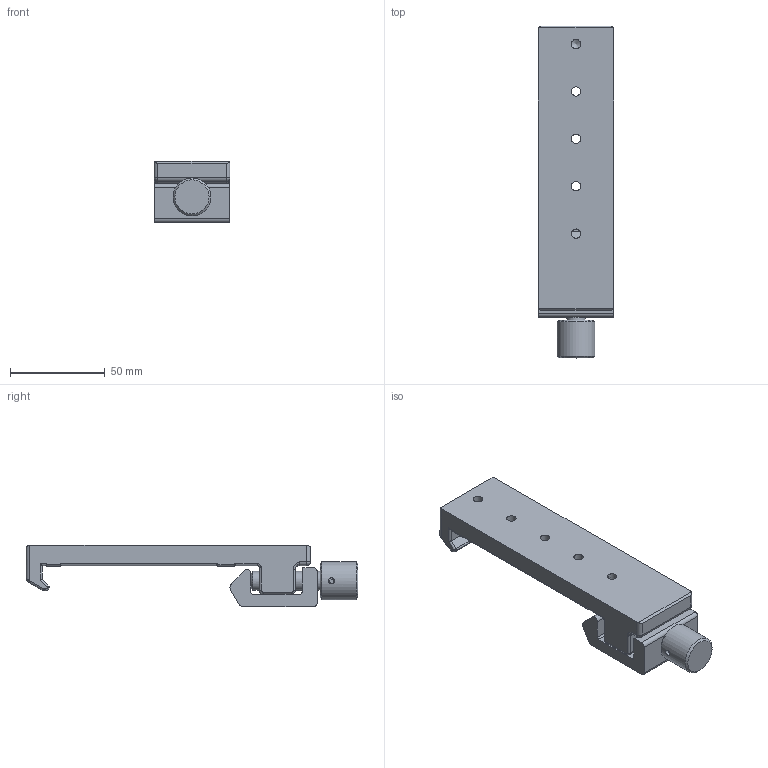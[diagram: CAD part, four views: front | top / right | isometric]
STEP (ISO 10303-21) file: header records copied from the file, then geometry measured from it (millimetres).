
FILE_DESCRIPTION((''),'2;1');
FILE_NAME('S:\1規格品図面ﾃﾞｰﾀ\OpticalHard\02_海外製品\3_Bases\CAA\CAA-40LEE\CAA-40LEE.stp','2007-06-08T17:14:26',('okegawa'),(''),'Autodesk Inventor 11','Autodesk Inventor 11','');
FILE_SCHEMA(('AUTOMOTIVE_DESIGN { 1 0 10303 214 1 1 1 1 }'));
Length unit declared in the file: millimetre
Products named in the file (1): CAA-40LEE-C1-S03
Bounding box: 40 x 175.05 x 32.2 mm (x, y, z)
Volume: 105773.8 mm3; surface area: 29753.1 mm2
Topology: 6 solids, 6 shells, 183 faces, 436 edges, 266 vertices
Faces by surface type: plane 73, cylinder 66, bspline 22, cone 10, torus 8, sphere 4
Full cylindrical faces by diameter (mm): 3 x2, 3.242 x4, 5.5 x1, 6 x1, 10 x3, 20 x1
Entity records: 8959 total; most frequent: CARTESIAN_POINT 5009, DIRECTION 831, ORIENTED_EDGE 744, EDGE_CURVE 372, AXIS2_PLACEMENT_3D 315, VERTEX_POINT 243, EDGE_LOOP 241, VECTOR 201
